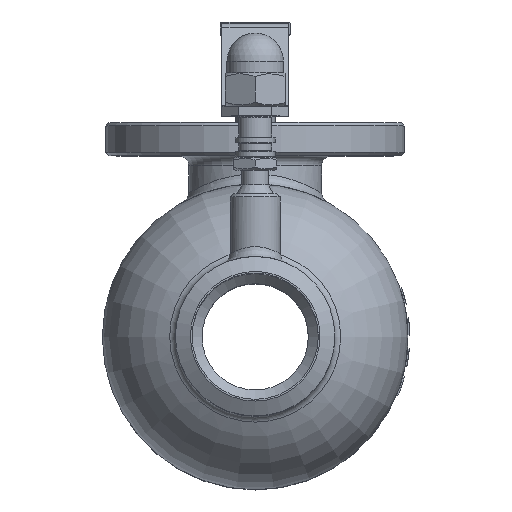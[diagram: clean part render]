
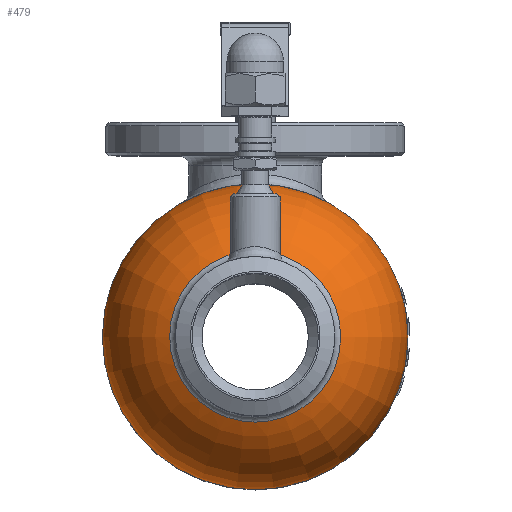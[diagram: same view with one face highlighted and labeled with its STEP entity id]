
A CAD part, top view. The second image highlights one B-rep face of the part: STEP entity #479.
In plain terms, the highlighted toroidal (fillet/blend) face has major radius 10.994 mm and minor radius 35.006 mm.
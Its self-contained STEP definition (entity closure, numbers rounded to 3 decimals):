
#479=ADVANCED_FACE('',(#2791,#2793),#2795,.T.);
#2791=FACE_OUTER_BOUND('',#2792,.T.);
#2792=EDGE_LOOP('',(#25091));
#2793=FACE_BOUND('',#2794,.T.);
#2794=EDGE_LOOP('',(#25092,#25093));
#2795=DEGENERATE_TOROIDAL_SURFACE('',#2796,10.994,35.006,.T.);
#2796=AXIS2_PLACEMENT_3D('',#2797,#2798,#2799);
#2797=CARTESIAN_POINT('',(0.,0.,32.5));
#2798=DIRECTION('',(0.,0.,1.));
#2799=DIRECTION('',(1.,0.,0.));
#25091=ORIENTED_EDGE('',*,*,#31171,.T.);
#25092=ORIENTED_EDGE('',*,*,#31442,.T.);
#25093=ORIENTED_EDGE('',*,*,#31443,.T.);
#31171=EDGE_CURVE('',#33603,#33603,#33604,.T.);
#31442=EDGE_CURVE('',#34145,#34146,#34147,.T.);
#31443=EDGE_CURVE('',#34146,#34145,#34148,.T.);
#33603=VERTEX_POINT('',#43818);
#33604=CIRCLE('',#43819,46.);
#34145=VERTEX_POINT('',#52135);
#34146=VERTEX_POINT('',#52136);
#34147=CIRCLE('',#52137,25.737);
#34148=CIRCLE('',#52141,25.737);
#43818=CARTESIAN_POINT('',(46.,0.,32.5));
#43819=AXIS2_PLACEMENT_3D('',#43820,#43821,#43822);
#43820=CARTESIAN_POINT('',(0.,0.,32.5));
#43821=DIRECTION('',(0.,0.,1.));
#43822=DIRECTION('',(1.,0.,0.));
#52135=CARTESIAN_POINT('',(25.737,0.,64.25));
#52136=CARTESIAN_POINT('',(-25.737,0.,64.25));
#52137=AXIS2_PLACEMENT_3D('',#52138,#52139,#52140);
#52138=CARTESIAN_POINT('',(0.,0.,64.25));
#52139=DIRECTION('',(0.,0.,-1.));
#52140=DIRECTION('',(1.,0.,0.));
#52141=AXIS2_PLACEMENT_3D('',#52142,#52143,#52144);
#52142=CARTESIAN_POINT('',(0.,0.,64.25));
#52143=DIRECTION('',(0.,0.,-1.));
#52144=DIRECTION('',(-1.,0.,0.));
